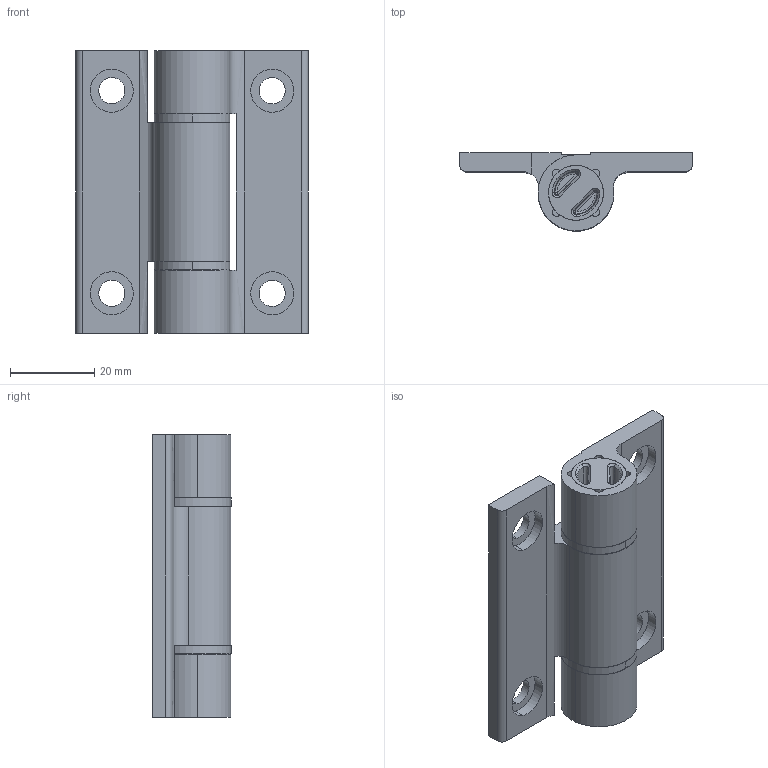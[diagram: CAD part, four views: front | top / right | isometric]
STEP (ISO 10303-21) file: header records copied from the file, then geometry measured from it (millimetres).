
FILE_DESCRIPTION((''),'2;1');
FILE_NAME('6872.01.stp','2013-07-12T16:33:48',(''),(''),'Mechanical Desktop 2006','Mechanical Desktop 2006',', , ');
FILE_SCHEMA(('CONFIG_CONTROL_DESIGN'));
Length unit declared in the file: millimetre
Products named in the file (6): 6872.02; TEIL1; TEIL2; TEIL3; TEIL4; TEIL5
Assembly tree (5 placements, depth 2):
  6872.02
    TEIL1
    TEIL2
    TEIL3
    TEIL4
    TEIL5
Bounding box: 55 x 18.5 x 67 mm (x, y, z)
Volume: 27196 mm3; surface area: 17731.2 mm2
Topology: 5 solids, 9 shells, 249 faces, 639 edges, 421 vertices
Faces by surface type: bspline 143, plane 73, cone 12, torus 11, sphere 8, cylinder 2
Entity records: 9902 total; most frequent: CARTESIAN_POINT 4090, ORIENTED_EDGE 1278, DIRECTION 1043, EDGE_CURVE 639, VERTEX_POINT 421, AXIS2_PLACEMENT_3D 381, VECTOR 281, LINE 281
